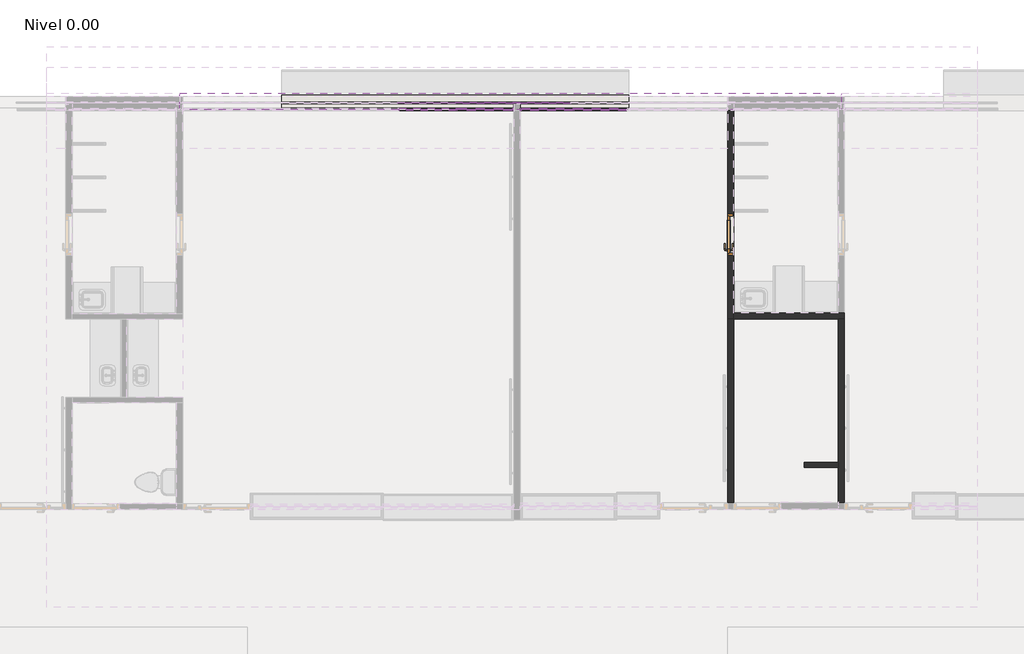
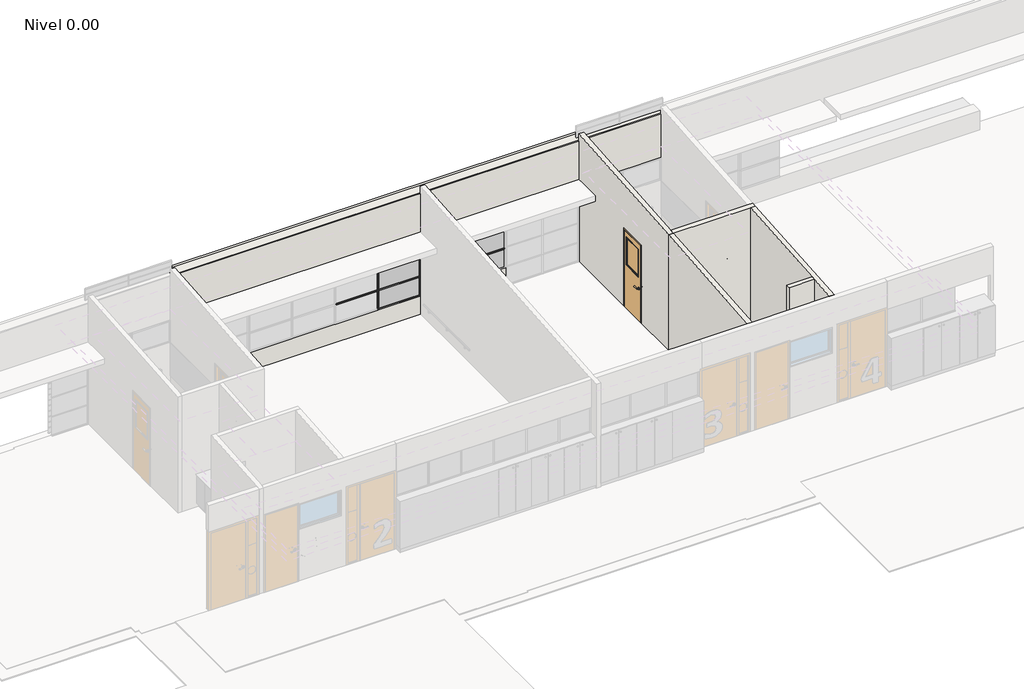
# One storey, part 18 of 27: 72 members, 42 plates, 7 walls, 1 door.
"""IFC4 building model written with IfcOpenShell, lengths in millimetres."""

from ifc_helpers import new_model, si_unit, frame, origin, place, context, project, spatial, polyline, outline, extrude, faceted_brep, transform, mapped, element, save
from components import puerta_c_01_c01_800x2100mm_f7d64b3f, circular_mullion_f540d6b4, l_corner_mullion_285056ba, rectangular_mullion_bbf09746, rectangular_mullion_f7ba8490, rectangular_mullion_f0e0a5df, rectangular_mullion_80493510, rectangular_mullion_e9bbeab9, rectangular_mullion_d5adadfc, rectangular_mullion_0c4cfd72, rectangular_mullion_caa13081, rectangular_mullion_54f8157b, rectangular_mullion_de2a72ae, rectangular_mullion_bc77bd75, system_panel_6a406881, system_panel_bc75342b, system_panel_glazed_28309fe7, system_panel_glazed_4516bcf1, system_panel_glazed_e39bf73d, system_panel_glazed_5dd8fc48, system_panel_glazed_1c3239b0, system_panel_glazed_cf307010

model = new_model("IFC4")

# Units and contexts
model_context = context("Model", 3, world=origin())
ifc_project = project(units=[si_unit("LENGTHUNIT", "METRE", prefix="MILLI")], contexts=[model_context])

# Site, building, storey
site = spatial("IfcSite", under=ifc_project)
building = spatial("IfcBuilding", under=site)
storey = spatial("IfcBuildingStorey", under=building, Name="Nivel 0.00", Elevation=0.0)

# Door
placement = place(None, origin())
puerta_c_01_c01_800x2100mm_shape = puerta_c_01_c01_800x2100mm_f7d64b3f(model_context)
element("IfcDoor", 1, ObjectType="PUERTA_C-01 : C01_800X2100mm", at=placement, inside=storey, context=model_context, shape_type="MappedRepresentation", body=[
    mapped(puerta_c_01_c01_800x2100mm_shape, transform((3300.7310741, 4429.3952347, 0.0), x_axis=(0.0, 1.0, 0.0), y_axis=(-1.0, 0.0, 0.0), z_axis=(0.0, 0.0, 1.0))),
])

# Members
circular_mullion_shape = circular_mullion_f540d6b4(model_context)
element("IfcMember", 2, ObjectType="Circular Mullion : ARQ_HERR_16mm", at=placement, inside=storey, context=model_context, shape_type="MappedRepresentation", body=[
    mapped(circular_mullion_shape, transform((-879.9497259, 6959.4278548, 645.4545455), x_axis=(0.0, 0.0, 1.0), y_axis=(0.0, 1.0, 0.0), z_axis=(-1.0, 0.0, 0.0))),
])
element("IfcMember", 3, ObjectType="Circular Mullion : ARQ_HERR_16mm", at=placement, inside=storey, context=model_context, shape_type="MappedRepresentation", body=[
    mapped(circular_mullion_shape, transform((-1987.2830591, 6959.4278548, 645.4545455), x_axis=(0.0, 0.0, 1.0), y_axis=(0.0, 1.0, 0.0), z_axis=(-1.0, 0.0, 0.0))),
])
element("IfcMember", 4, ObjectType="Circular Mullion : ARQ_HERR_16mm", at=placement, inside=storey, context=model_context, shape_type="MappedRepresentation", body=[
    mapped(circular_mullion_shape, transform((-879.9497259, 6959.4278548, 790.9090909), x_axis=(0.0, 0.0, 1.0), y_axis=(0.0, 1.0, 0.0), z_axis=(-1.0, 0.0, 0.0))),
])
element("IfcMember", 5, ObjectType="Circular Mullion : ARQ_HERR_16mm", at=placement, inside=storey, context=model_context, shape_type="MappedRepresentation", body=[
    mapped(circular_mullion_shape, transform((-1987.2830591, 6959.4278548, 790.9090909), x_axis=(0.0, 0.0, 1.0), y_axis=(0.0, 1.0, 0.0), z_axis=(-1.0, 0.0, 0.0))),
])
element("IfcMember", 6, ObjectType="Circular Mullion : ARQ_HERR_16mm", at=placement, inside=storey, context=model_context, shape_type="MappedRepresentation", body=[
    mapped(circular_mullion_shape, transform((-879.9497259, 6959.4278548, 936.3636364), x_axis=(0.0, 0.0, 1.0), y_axis=(0.0, 1.0, 0.0), z_axis=(-1.0, 0.0, 0.0))),
])
element("IfcMember", 7, ObjectType="Circular Mullion : ARQ_HERR_16mm", at=placement, inside=storey, context=model_context, shape_type="MappedRepresentation", body=[
    mapped(circular_mullion_shape, transform((-1987.2830591, 6959.4278548, 936.3636364), x_axis=(0.0, 0.0, 1.0), y_axis=(0.0, 1.0, 0.0), z_axis=(-1.0, 0.0, 0.0))),
])
element("IfcMember", 8, ObjectType="Circular Mullion : ARQ_HERR_16mm", at=placement, inside=storey, context=model_context, shape_type="MappedRepresentation", body=[
    mapped(circular_mullion_shape, transform((-879.9497259, 6959.4278548, 1081.8181818), x_axis=(0.0, 0.0, 1.0), y_axis=(0.0, 1.0, 0.0), z_axis=(-1.0, 0.0, 0.0))),
])
element("IfcMember", 9, ObjectType="Circular Mullion : ARQ_HERR_16mm", at=placement, inside=storey, context=model_context, shape_type="MappedRepresentation", body=[
    mapped(circular_mullion_shape, transform((-1987.2830591, 6959.4278548, 1081.8181818), x_axis=(0.0, 0.0, 1.0), y_axis=(0.0, 1.0, 0.0), z_axis=(-1.0, 0.0, 0.0))),
])
element("IfcMember", 10, ObjectType="Circular Mullion : ARQ_HERR_16mm", at=placement, inside=storey, context=model_context, shape_type="MappedRepresentation", body=[
    mapped(circular_mullion_shape, transform((-879.9497259, 6959.4278548, 1227.2727273), x_axis=(0.0, 0.0, 1.0), y_axis=(0.0, 1.0, 0.0), z_axis=(-1.0, 0.0, 0.0))),
])
element("IfcMember", 11, ObjectType="Circular Mullion : ARQ_HERR_16mm", at=placement, inside=storey, context=model_context, shape_type="MappedRepresentation", body=[
    mapped(circular_mullion_shape, transform((-1987.2830591, 6959.4278548, 1227.2727273), x_axis=(0.0, 0.0, 1.0), y_axis=(0.0, 1.0, 0.0), z_axis=(-1.0, 0.0, 0.0))),
])
element("IfcMember", 12, ObjectType="Circular Mullion : ARQ_HERR_16mm", at=placement, inside=storey, context=model_context, shape_type="MappedRepresentation", body=[
    mapped(circular_mullion_shape, transform((-879.9497259, 6959.4278548, 1372.7272727), x_axis=(0.0, 0.0, 1.0), y_axis=(0.0, 1.0, 0.0), z_axis=(-1.0, 0.0, 0.0))),
])
element("IfcMember", 13, ObjectType="Circular Mullion : ARQ_HERR_16mm", at=placement, inside=storey, context=model_context, shape_type="MappedRepresentation", body=[
    mapped(circular_mullion_shape, transform((-1987.2830591, 6959.4278548, 1372.7272727), x_axis=(0.0, 0.0, 1.0), y_axis=(0.0, 1.0, 0.0), z_axis=(-1.0, 0.0, 0.0))),
])
element("IfcMember", 14, ObjectType="Circular Mullion : ARQ_HERR_16mm", at=placement, inside=storey, context=model_context, shape_type="MappedRepresentation", body=[
    mapped(circular_mullion_shape, transform((-879.9497259, 6959.4278548, 1518.1818182), x_axis=(0.0, 0.0, 1.0), y_axis=(0.0, 1.0, 0.0), z_axis=(-1.0, 0.0, 0.0))),
])
element("IfcMember", 15, ObjectType="Circular Mullion : ARQ_HERR_16mm", at=placement, inside=storey, context=model_context, shape_type="MappedRepresentation", body=[
    mapped(circular_mullion_shape, transform((-1987.2830591, 6959.4278548, 1518.1818182), x_axis=(0.0, 0.0, 1.0), y_axis=(0.0, 1.0, 0.0), z_axis=(-1.0, 0.0, 0.0))),
])
element("IfcMember", 16, ObjectType="Circular Mullion : ARQ_HERR_16mm", at=placement, inside=storey, context=model_context, shape_type="MappedRepresentation", body=[
    mapped(circular_mullion_shape, transform((-879.9497259, 6959.4278548, 1663.6363636), x_axis=(0.0, 0.0, 1.0), y_axis=(0.0, 1.0, 0.0), z_axis=(-1.0, 0.0, 0.0))),
])
element("IfcMember", 17, ObjectType="Circular Mullion : ARQ_HERR_16mm", at=placement, inside=storey, context=model_context, shape_type="MappedRepresentation", body=[
    mapped(circular_mullion_shape, transform((-1987.2830591, 6959.4278548, 1663.6363636), x_axis=(0.0, 0.0, 1.0), y_axis=(0.0, 1.0, 0.0), z_axis=(-1.0, 0.0, 0.0))),
])
element("IfcMember", 18, ObjectType="Circular Mullion : ARQ_HERR_16mm", at=placement, inside=storey, context=model_context, shape_type="MappedRepresentation", body=[
    mapped(circular_mullion_shape, transform((-879.9497259, 6959.4278548, 1809.0909091), x_axis=(0.0, 0.0, 1.0), y_axis=(0.0, 1.0, 0.0), z_axis=(-1.0, 0.0, 0.0))),
])
element("IfcMember", 19, ObjectType="Circular Mullion : ARQ_HERR_16mm", at=placement, inside=storey, context=model_context, shape_type="MappedRepresentation", body=[
    mapped(circular_mullion_shape, transform((-1987.2830591, 6959.4278548, 1809.0909091), x_axis=(0.0, 0.0, 1.0), y_axis=(0.0, 1.0, 0.0), z_axis=(-1.0, 0.0, 0.0))),
])
element("IfcMember", 20, ObjectType="Circular Mullion : ARQ_HERR_16mm", at=placement, inside=storey, context=model_context, shape_type="MappedRepresentation", body=[
    mapped(circular_mullion_shape, transform((-879.9497259, 6959.4278548, 1954.5454545), x_axis=(0.0, 0.0, 1.0), y_axis=(0.0, 1.0, 0.0), z_axis=(-1.0, 0.0, 0.0))),
])
element("IfcMember", 21, ObjectType="Circular Mullion : ARQ_HERR_16mm", at=placement, inside=storey, context=model_context, shape_type="MappedRepresentation", body=[
    mapped(circular_mullion_shape, transform((-1987.2830591, 6959.4278548, 1954.5454545), x_axis=(0.0, 0.0, 1.0), y_axis=(0.0, 1.0, 0.0), z_axis=(-1.0, 0.0, 0.0))),
])
l_corner_mullion_shape = l_corner_mullion_285056ba(model_context)
element("IfcMember", 22, ObjectType="L Corner Mullion : ARQ_HERR_15X6mm", at=placement, inside=storey, context=model_context, shape_type="MappedRepresentation", body=[
    mapped(l_corner_mullion_shape, transform((-879.9497259, 6959.4278548, 2100.0), x_axis=(0.0, 0.0, 1.0), y_axis=(0.0, 1.0, 0.0), z_axis=(-1.0, 0.0, 0.0))),
])
element("IfcMember", 23, ObjectType="L Corner Mullion : ARQ_HERR_15X6mm", at=placement, inside=storey, context=model_context, shape_type="MappedRepresentation", body=[
    mapped(l_corner_mullion_shape, transform((-1987.2830591, 6959.4278548, 2100.0), x_axis=(0.0, 0.0, 1.0), y_axis=(0.0, 1.0, 0.0), z_axis=(-1.0, 0.0, 0.0))),
])
element("IfcMember", 24, ObjectType="L Corner Mullion : ARQ_HERR_15X6mm", at=placement, inside=storey, context=model_context, shape_type="MappedRepresentation", body=[
    mapped(l_corner_mullion_shape, transform((-885.9497259, 6959.4278548, 500.0), x_axis=(0.0, 0.0, -1.0), y_axis=(0.0, 1.0, 0.0), z_axis=(1.0, 0.0, 0.0))),
])
element("IfcMember", 25, ObjectType="L Corner Mullion : ARQ_HERR_15X6mm", at=placement, inside=storey, context=model_context, shape_type="MappedRepresentation", body=[
    mapped(l_corner_mullion_shape, transform((-1993.2830591, 6959.4278548, 500.0), x_axis=(0.0, 0.0, -1.0), y_axis=(0.0, 1.0, 0.0), z_axis=(1.0, 0.0, 0.0))),
])
rectangular_mullion_shape = rectangular_mullion_bbf09746(model_context)
element("IfcMember", 26, ObjectType="Rectangular Mullion : ARQ_TV_MULL_50x30mm", at=placement, inside=storey, context=model_context, shape_type="MappedRepresentation", body=[
    mapped(rectangular_mullion_shape, transform((-1962.9977496, 6834.439065, 500.0), x_axis=(1.0, 0.0, 0.0), y_axis=(0.0, -1.0, 0.0), z_axis=(0.0, 0.0, -1.0))),
])
element("IfcMember", 27, ObjectType="Rectangular Mullion : ARQ_TV_MULL_50x30mm", at=placement, inside=storey, context=model_context, shape_type="MappedRepresentation", body=[
    mapped(rectangular_mullion_shape, transform((279.573814, 6834.4460974, 500.0), x_axis=(-1.0, 0.0, 0.0), y_axis=(0.0, 1.0, 0.0), z_axis=(0.0, 0.0, -1.0))),
])
element("IfcMember", 28, ObjectType="Rectangular Mullion : ARQ_TV_MULL_50x30mm", at=placement, inside=storey, context=model_context, shape_type="MappedRepresentation", body=[
    mapped(rectangular_mullion_shape, transform((-1962.9977496, 6834.439065, 1033.3333333), x_axis=(1.0, 0.0, 0.0), y_axis=(0.0, -1.0, 0.0), z_axis=(0.0, 0.0, -1.0))),
])
element("IfcMember", 29, ObjectType="Rectangular Mullion : ARQ_TV_MULL_50x30mm", at=placement, inside=storey, context=model_context, shape_type="MappedRepresentation", body=[
    mapped(rectangular_mullion_shape, transform((279.573814, 6834.4460974, 1033.3333333), x_axis=(-1.0, 0.0, 0.0), y_axis=(0.0, 1.0, 0.0), z_axis=(0.0, 0.0, -1.0))),
])
element("IfcMember", 30, ObjectType="Rectangular Mullion : ARQ_TV_MULL_50x30mm", at=placement, inside=storey, context=model_context, shape_type="MappedRepresentation", body=[
    mapped(rectangular_mullion_shape, transform((-1962.9977496, 6834.439065, 1566.6666667), x_axis=(1.0, 0.0, 0.0), y_axis=(0.0, -1.0, 0.0), z_axis=(0.0, 0.0, -1.0))),
])
element("IfcMember", 31, ObjectType="Rectangular Mullion : ARQ_TV_MULL_50x30mm", at=placement, inside=storey, context=model_context, shape_type="MappedRepresentation", body=[
    mapped(rectangular_mullion_shape, transform((279.573814, 6834.4460974, 1566.6666667), x_axis=(-1.0, 0.0, 0.0), y_axis=(0.0, 1.0, 0.0), z_axis=(0.0, 0.0, -1.0))),
])
rectangular_mullion_2_shape = rectangular_mullion_f7ba8490(model_context)
element("IfcMember", 32, ObjectType="Rectangular Mullion : ARQ_TV_MULL_50x30mm", at=placement, inside=storey, context=model_context, shape_type="MappedRepresentation", body=[
    mapped(rectangular_mullion_2_shape, transform((-865.5693128, 6834.439065, 500.0), x_axis=(1.0, 0.0, 0.0), y_axis=(0.0, -1.0, 0.0), z_axis=(0.0, 0.0, -1.0))),
])
element("IfcMember", 33, ObjectType="Rectangular Mullion : ARQ_TV_MULL_50x30mm", at=placement, inside=storey, context=model_context, shape_type="MappedRepresentation", body=[
    mapped(rectangular_mullion_2_shape, transform((-745.5693128, 6834.4460974, 500.0), x_axis=(-1.0, 0.0, 0.0), y_axis=(0.0, 1.0, 0.0), z_axis=(0.0, 0.0, -1.0))),
])
element("IfcMember", 34, ObjectType="Rectangular Mullion : ARQ_TV_MULL_50x30mm", at=placement, inside=storey, context=model_context, shape_type="MappedRepresentation", body=[
    mapped(rectangular_mullion_2_shape, transform((-865.5693128, 6834.439065, 1033.3333333), x_axis=(1.0, 0.0, 0.0), y_axis=(0.0, -1.0, 0.0), z_axis=(0.0, 0.0, -1.0))),
])
element("IfcMember", 35, ObjectType="Rectangular Mullion : ARQ_TV_MULL_50x30mm", at=placement, inside=storey, context=model_context, shape_type="MappedRepresentation", body=[
    mapped(rectangular_mullion_2_shape, transform((-745.5693128, 6834.4460974, 1033.3333333), x_axis=(-1.0, 0.0, 0.0), y_axis=(0.0, 1.0, 0.0), z_axis=(0.0, 0.0, -1.0))),
])
element("IfcMember", 36, ObjectType="Rectangular Mullion : ARQ_TV_MULL_50x30mm", at=placement, inside=storey, context=model_context, shape_type="MappedRepresentation", body=[
    mapped(rectangular_mullion_2_shape, transform((-865.5693128, 6834.439065, 1566.6666667), x_axis=(1.0, 0.0, 0.0), y_axis=(0.0, -1.0, 0.0), z_axis=(0.0, 0.0, -1.0))),
])
element("IfcMember", 37, ObjectType="Rectangular Mullion : ARQ_TV_MULL_50x30mm", at=placement, inside=storey, context=model_context, shape_type="MappedRepresentation", body=[
    mapped(rectangular_mullion_2_shape, transform((-745.5693128, 6834.4460974, 1566.6666667), x_axis=(-1.0, 0.0, 0.0), y_axis=(0.0, 1.0, 0.0), z_axis=(0.0, 0.0, -1.0))),
])
rectangular_mullion_3_shape = rectangular_mullion_f0e0a5df(model_context)
element("IfcMember", 38, ObjectType="Rectangular Mullion : ARQ_TV_MULL_50x30mm", at=placement, inside=storey, context=model_context, shape_type="MappedRepresentation", body=[
    mapped(rectangular_mullion_3_shape, transform((-895.5693128, 6834.439065, 2100.0), x_axis=(0.0, 0.0, 1.0), y_axis=(0.0, -1.0, 0.0), z_axis=(1.0, 0.0, 0.0))),
])
rectangular_mullion_4_shape = rectangular_mullion_80493510(model_context)
element("IfcMember", 39, ObjectType="Rectangular Mullion : ARQ_TV_MULL_50x30mm", at=placement, inside=storey, context=model_context, shape_type="MappedRepresentation", body=[
    mapped(rectangular_mullion_4_shape, transform((-1977.9977496, 6834.439065, 2100.0), x_axis=(0.0, 0.0, 1.0), y_axis=(0.0, -1.0, 0.0), z_axis=(1.0, 0.0, 0.0))),
])
element("IfcMember", 40, ObjectType="Rectangular Mullion : ARQ_TV_MULL_50x30mm", at=placement, inside=storey, context=model_context, shape_type="MappedRepresentation", body=[
    mapped(rectangular_mullion_3_shape, transform((-1947.9977496, 6834.439065, 500.0), x_axis=(0.0, 0.0, -1.0), y_axis=(0.0, -1.0, 0.0), z_axis=(-1.0, 0.0, 0.0))),
])
rectangular_mullion_5_shape = rectangular_mullion_e9bbeab9(model_context)
element("IfcMember", 41, ObjectType="Rectangular Mullion : ARQ_TV_MULL_50x30mm", at=placement, inside=storey, context=model_context, shape_type="MappedRepresentation", body=[
    mapped(rectangular_mullion_5_shape, transform((-1977.9977496, 6834.439065, 1033.3333333), x_axis=(0.0, 0.0, 1.0), y_axis=(0.0, -1.0, 0.0), z_axis=(1.0, 0.0, 0.0))),
])
element("IfcMember", 42, ObjectType="Rectangular Mullion : ARQ_TV_MULL_50x30mm", at=placement, inside=storey, context=model_context, shape_type="MappedRepresentation", body=[
    mapped(rectangular_mullion_5_shape, transform((-1977.9977496, 6834.439065, 1566.6666667), x_axis=(0.0, 0.0, 1.0), y_axis=(0.0, -1.0, 0.0), z_axis=(1.0, 0.0, 0.0))),
])
rectangular_mullion_6_shape = rectangular_mullion_d5adadfc(model_context)
element("IfcMember", 43, ObjectType="Rectangular Mullion : ARQ_TV_MULL_50x30mm", at=placement, inside=storey, context=model_context, shape_type="MappedRepresentation", body=[
    mapped(rectangular_mullion_6_shape, transform((-895.5693128, 6834.439065, 1033.3333333), x_axis=(0.0, 0.0, 1.0), y_axis=(0.0, -1.0, 0.0), z_axis=(1.0, 0.0, 0.0))),
])
element("IfcMember", 44, ObjectType="Rectangular Mullion : ARQ_TV_MULL_50x30mm", at=placement, inside=storey, context=model_context, shape_type="MappedRepresentation", body=[
    mapped(rectangular_mullion_6_shape, transform((-895.5693128, 6834.439065, 1566.6666667), x_axis=(0.0, 0.0, 1.0), y_axis=(0.0, -1.0, 0.0), z_axis=(1.0, 0.0, 0.0))),
])
rectangular_mullion_7_shape = rectangular_mullion_0c4cfd72(model_context)
element("IfcMember", 45, ObjectType="Rectangular Mullion : ARQ_TV_MULL_50x30mm", at=placement, inside=storey, context=model_context, shape_type="MappedRepresentation", body=[
    mapped(rectangular_mullion_7_shape, transform((-715.5693128, 6834.4460974, 2100.0), x_axis=(0.0, 0.0, 1.0), y_axis=(0.0, 1.0, 0.0), z_axis=(-1.0, 0.0, 0.0))),
])
rectangular_mullion_8_shape = rectangular_mullion_caa13081(model_context)
element("IfcMember", 46, ObjectType="Rectangular Mullion : ARQ_TV_MULL_50x30mm", at=placement, inside=storey, context=model_context, shape_type="MappedRepresentation", body=[
    mapped(rectangular_mullion_8_shape, transform((294.573814, 6834.4460974, 2100.0), x_axis=(0.0, 0.0, 1.0), y_axis=(0.0, 1.0, 0.0), z_axis=(-1.0, 0.0, 0.0))),
])
element("IfcMember", 47, ObjectType="Rectangular Mullion : ARQ_TV_MULL_50x30mm", at=placement, inside=storey, context=model_context, shape_type="MappedRepresentation", body=[
    mapped(rectangular_mullion_7_shape, transform((264.573814, 6834.4460974, 500.0), x_axis=(0.0, 0.0, -1.0), y_axis=(0.0, 1.0, 0.0), z_axis=(1.0, 0.0, 0.0))),
])
rectangular_mullion_9_shape = rectangular_mullion_54f8157b(model_context)
element("IfcMember", 48, ObjectType="Rectangular Mullion : ARQ_TV_MULL_50x30mm", at=placement, inside=storey, context=model_context, shape_type="MappedRepresentation", body=[
    mapped(rectangular_mullion_9_shape, transform((294.573814, 6834.4460974, 1033.3333333), x_axis=(0.0, 0.0, 1.0), y_axis=(0.0, 1.0, 0.0), z_axis=(-1.0, 0.0, 0.0))),
])
element("IfcMember", 49, ObjectType="Rectangular Mullion : ARQ_TV_MULL_50x30mm", at=placement, inside=storey, context=model_context, shape_type="MappedRepresentation", body=[
    mapped(rectangular_mullion_9_shape, transform((294.573814, 6834.4460974, 1566.6666667), x_axis=(0.0, 0.0, 1.0), y_axis=(0.0, 1.0, 0.0), z_axis=(-1.0, 0.0, 0.0))),
])
rectangular_mullion_10_shape = rectangular_mullion_de2a72ae(model_context)
element("IfcMember", 50, ObjectType="Rectangular Mullion : ARQ_TV_MULL_50x30mm", at=placement, inside=storey, context=model_context, shape_type="MappedRepresentation", body=[
    mapped(rectangular_mullion_10_shape, transform((-715.5693128, 6834.4460974, 1033.3333333), x_axis=(0.0, 0.0, 1.0), y_axis=(0.0, 1.0, 0.0), z_axis=(-1.0, 0.0, 0.0))),
])
element("IfcMember", 51, ObjectType="Rectangular Mullion : ARQ_TV_MULL_50x30mm", at=placement, inside=storey, context=model_context, shape_type="MappedRepresentation", body=[
    mapped(rectangular_mullion_10_shape, transform((-715.5693128, 6834.4460974, 1566.6666667), x_axis=(0.0, 0.0, 1.0), y_axis=(0.0, 1.0, 0.0), z_axis=(-1.0, 0.0, 0.0))),
])
rectangular_mullion_11_shape = rectangular_mullion_bc77bd75(model_context)
element("IfcMember", 52, ObjectType="Rectangular Mullion : ARQ_HERR_15X6mm", at=placement, inside=storey, context=model_context, shape_type="MappedRepresentation", body=[
    mapped(rectangular_mullion_11_shape, transform((-882.9497259, 6959.4278548, 500.0), x_axis=(-1.0, 0.0, 0.0), y_axis=(0.0, 1.0, 0.0), z_axis=(0.0, 0.0, -1.0))),
])
element("IfcMember", 53, ObjectType="Rectangular Mullion : ARQ_HERR_15X6mm", at=placement, inside=storey, context=model_context, shape_type="MappedRepresentation", body=[
    mapped(rectangular_mullion_11_shape, transform((-1990.2830591, 6959.4278548, 500.0), x_axis=(-1.0, 0.0, 0.0), y_axis=(0.0, 1.0, 0.0), z_axis=(0.0, 0.0, -1.0))),
])
element("IfcMember", 54, ObjectType="Rectangular Mullion : ARQ_HERR_15X6mm", at=placement, inside=storey, context=model_context, shape_type="MappedRepresentation", body=[
    mapped(rectangular_mullion_11_shape, transform((-882.9497259, 6959.4278548, 645.4545455), x_axis=(-1.0, 0.0, 0.0), y_axis=(0.0, 1.0, 0.0), z_axis=(0.0, 0.0, -1.0))),
])
element("IfcMember", 55, ObjectType="Rectangular Mullion : ARQ_HERR_15X6mm", at=placement, inside=storey, context=model_context, shape_type="MappedRepresentation", body=[
    mapped(rectangular_mullion_11_shape, transform((-1990.2830591, 6959.4278548, 645.4545455), x_axis=(-1.0, 0.0, 0.0), y_axis=(0.0, 1.0, 0.0), z_axis=(0.0, 0.0, -1.0))),
])
element("IfcMember", 56, ObjectType="Rectangular Mullion : ARQ_HERR_15X6mm", at=placement, inside=storey, context=model_context, shape_type="MappedRepresentation", body=[
    mapped(rectangular_mullion_11_shape, transform((-882.9497259, 6959.4278548, 790.9090909), x_axis=(-1.0, 0.0, 0.0), y_axis=(0.0, 1.0, 0.0), z_axis=(0.0, 0.0, -1.0))),
])
element("IfcMember", 57, ObjectType="Rectangular Mullion : ARQ_HERR_15X6mm", at=placement, inside=storey, context=model_context, shape_type="MappedRepresentation", body=[
    mapped(rectangular_mullion_11_shape, transform((-1990.2830591, 6959.4278548, 790.9090909), x_axis=(-1.0, 0.0, 0.0), y_axis=(0.0, 1.0, 0.0), z_axis=(0.0, 0.0, -1.0))),
])
element("IfcMember", 58, ObjectType="Rectangular Mullion : ARQ_HERR_15X6mm", at=placement, inside=storey, context=model_context, shape_type="MappedRepresentation", body=[
    mapped(rectangular_mullion_11_shape, transform((-882.9497259, 6959.4278548, 936.3636364), x_axis=(-1.0, 0.0, 0.0), y_axis=(0.0, 1.0, 0.0), z_axis=(0.0, 0.0, -1.0))),
])
element("IfcMember", 59, ObjectType="Rectangular Mullion : ARQ_HERR_15X6mm", at=placement, inside=storey, context=model_context, shape_type="MappedRepresentation", body=[
    mapped(rectangular_mullion_11_shape, transform((-1990.2830591, 6959.4278548, 936.3636364), x_axis=(-1.0, 0.0, 0.0), y_axis=(0.0, 1.0, 0.0), z_axis=(0.0, 0.0, -1.0))),
])
element("IfcMember", 60, ObjectType="Rectangular Mullion : ARQ_HERR_15X6mm", at=placement, inside=storey, context=model_context, shape_type="MappedRepresentation", body=[
    mapped(rectangular_mullion_11_shape, transform((-882.9497259, 6959.4278548, 1081.8181818), x_axis=(-1.0, 0.0, 0.0), y_axis=(0.0, 1.0, 0.0), z_axis=(0.0, 0.0, -1.0))),
])
element("IfcMember", 61, ObjectType="Rectangular Mullion : ARQ_HERR_15X6mm", at=placement, inside=storey, context=model_context, shape_type="MappedRepresentation", body=[
    mapped(rectangular_mullion_11_shape, transform((-1990.2830591, 6959.4278548, 1081.8181818), x_axis=(-1.0, 0.0, 0.0), y_axis=(0.0, 1.0, 0.0), z_axis=(0.0, 0.0, -1.0))),
])
element("IfcMember", 62, ObjectType="Rectangular Mullion : ARQ_HERR_15X6mm", at=placement, inside=storey, context=model_context, shape_type="MappedRepresentation", body=[
    mapped(rectangular_mullion_11_shape, transform((-882.9497259, 6959.4278548, 1227.2727273), x_axis=(-1.0, 0.0, 0.0), y_axis=(0.0, 1.0, 0.0), z_axis=(0.0, 0.0, -1.0))),
])
element("IfcMember", 63, ObjectType="Rectangular Mullion : ARQ_HERR_15X6mm", at=placement, inside=storey, context=model_context, shape_type="MappedRepresentation", body=[
    mapped(rectangular_mullion_11_shape, transform((-1990.2830591, 6959.4278548, 1227.2727273), x_axis=(-1.0, 0.0, 0.0), y_axis=(0.0, 1.0, 0.0), z_axis=(0.0, 0.0, -1.0))),
])
element("IfcMember", 64, ObjectType="Rectangular Mullion : ARQ_HERR_15X6mm", at=placement, inside=storey, context=model_context, shape_type="MappedRepresentation", body=[
    mapped(rectangular_mullion_11_shape, transform((-882.9497259, 6959.4278548, 1372.7272727), x_axis=(-1.0, 0.0, 0.0), y_axis=(0.0, 1.0, 0.0), z_axis=(0.0, 0.0, -1.0))),
])
element("IfcMember", 65, ObjectType="Rectangular Mullion : ARQ_HERR_15X6mm", at=placement, inside=storey, context=model_context, shape_type="MappedRepresentation", body=[
    mapped(rectangular_mullion_11_shape, transform((-1990.2830591, 6959.4278548, 1372.7272727), x_axis=(-1.0, 0.0, 0.0), y_axis=(0.0, 1.0, 0.0), z_axis=(0.0, 0.0, -1.0))),
])
element("IfcMember", 66, ObjectType="Rectangular Mullion : ARQ_HERR_15X6mm", at=placement, inside=storey, context=model_context, shape_type="MappedRepresentation", body=[
    mapped(rectangular_mullion_11_shape, transform((-882.9497259, 6959.4278548, 1518.1818182), x_axis=(-1.0, 0.0, 0.0), y_axis=(0.0, 1.0, 0.0), z_axis=(0.0, 0.0, -1.0))),
])
element("IfcMember", 67, ObjectType="Rectangular Mullion : ARQ_HERR_15X6mm", at=placement, inside=storey, context=model_context, shape_type="MappedRepresentation", body=[
    mapped(rectangular_mullion_11_shape, transform((-1990.2830591, 6959.4278548, 1518.1818182), x_axis=(-1.0, 0.0, 0.0), y_axis=(0.0, 1.0, 0.0), z_axis=(0.0, 0.0, -1.0))),
])
element("IfcMember", 68, ObjectType="Rectangular Mullion : ARQ_HERR_15X6mm", at=placement, inside=storey, context=model_context, shape_type="MappedRepresentation", body=[
    mapped(rectangular_mullion_11_shape, transform((-882.9497259, 6959.4278548, 1663.6363636), x_axis=(-1.0, 0.0, 0.0), y_axis=(0.0, 1.0, 0.0), z_axis=(0.0, 0.0, -1.0))),
])
element("IfcMember", 69, ObjectType="Rectangular Mullion : ARQ_HERR_15X6mm", at=placement, inside=storey, context=model_context, shape_type="MappedRepresentation", body=[
    mapped(rectangular_mullion_11_shape, transform((-1990.2830591, 6959.4278548, 1663.6363636), x_axis=(-1.0, 0.0, 0.0), y_axis=(0.0, 1.0, 0.0), z_axis=(0.0, 0.0, -1.0))),
])
element("IfcMember", 70, ObjectType="Rectangular Mullion : ARQ_HERR_15X6mm", at=placement, inside=storey, context=model_context, shape_type="MappedRepresentation", body=[
    mapped(rectangular_mullion_11_shape, transform((-882.9497259, 6959.4278548, 1809.0909091), x_axis=(-1.0, 0.0, 0.0), y_axis=(0.0, 1.0, 0.0), z_axis=(0.0, 0.0, -1.0))),
])
element("IfcMember", 71, ObjectType="Rectangular Mullion : ARQ_HERR_15X6mm", at=placement, inside=storey, context=model_context, shape_type="MappedRepresentation", body=[
    mapped(rectangular_mullion_11_shape, transform((-1990.2830591, 6959.4278548, 1809.0909091), x_axis=(-1.0, 0.0, 0.0), y_axis=(0.0, 1.0, 0.0), z_axis=(0.0, 0.0, -1.0))),
])
element("IfcMember", 72, ObjectType="Rectangular Mullion : ARQ_HERR_15X6mm", at=placement, inside=storey, context=model_context, shape_type="MappedRepresentation", body=[
    mapped(rectangular_mullion_11_shape, transform((-882.9497259, 6959.4278548, 1954.5454545), x_axis=(-1.0, 0.0, 0.0), y_axis=(0.0, 1.0, 0.0), z_axis=(0.0, 0.0, -1.0))),
])
element("IfcMember", 73, ObjectType="Rectangular Mullion : ARQ_HERR_15X6mm", at=placement, inside=storey, context=model_context, shape_type="MappedRepresentation", body=[
    mapped(rectangular_mullion_11_shape, transform((-1990.2830591, 6959.4278548, 1954.5454545), x_axis=(-1.0, 0.0, 0.0), y_axis=(0.0, 1.0, 0.0), z_axis=(0.0, 0.0, -1.0))),
])

# Plates
system_panel_shape = system_panel_6a406881(model_context)
element("IfcPlate", 74, ObjectType="System Panel : VACÍO", at=placement, inside=storey, context=model_context, shape_type="MappedRepresentation", body=[
    mapped(system_panel_shape, transform((778.0502741, 6959.4278548, 506.0), x_axis=(-1.0, 0.0, 0.0), y_axis=(0.0, -1.0, 0.0), z_axis=(0.0, 0.0, 1.0))),
])
element("IfcPlate", 75, ObjectType="System Panel : VACÍO", at=placement, inside=storey, context=model_context, shape_type="MappedRepresentation", body=[
    mapped(system_panel_shape, transform((-329.2830592, 6959.4278548, 506.0), x_axis=(-1.0, 0.0, 0.0), y_axis=(0.0, -1.0, 0.0), z_axis=(0.0, 0.0, 1.0))),
])
element("IfcPlate", 76, ObjectType="System Panel : VACÍO", at=placement, inside=storey, context=model_context, shape_type="MappedRepresentation", body=[
    mapped(system_panel_shape, transform((-1436.6163925, 6959.4278548, 506.0), x_axis=(-1.0, 0.0, 0.0), y_axis=(0.0, -1.0, 0.0), z_axis=(0.0, 0.0, 1.0))),
])
element("IfcPlate", 77, ObjectType="System Panel : VACÍO", at=placement, inside=storey, context=model_context, shape_type="MappedRepresentation", body=[
    mapped(system_panel_shape, transform((-329.2830592, 6959.4278548, 1962.5454545), x_axis=(-1.0, 0.0, 0.0), y_axis=(0.0, -1.0, 0.0), z_axis=(0.0, 0.0, 1.0))),
])
element("IfcPlate", 78, ObjectType="System Panel : VACÍO", at=placement, inside=storey, context=model_context, shape_type="MappedRepresentation", body=[
    mapped(system_panel_shape, transform((-1436.6163925, 6959.4278548, 1962.5454545), x_axis=(-1.0, 0.0, 0.0), y_axis=(0.0, -1.0, 0.0), z_axis=(0.0, 0.0, 1.0))),
])
element("IfcPlate", 79, ObjectType="System Panel : VACÍO", at=placement, inside=storey, context=model_context, shape_type="MappedRepresentation", body=[
    mapped(system_panel_shape, transform((-2543.9497257, 6959.4278548, 1962.5454545), x_axis=(-1.0, 0.0, 0.0), y_axis=(0.0, -1.0, 0.0), z_axis=(0.0, 0.0, 1.0))),
])
system_panel_2_shape = system_panel_bc75342b(model_context)
element("IfcPlate", 80, ObjectType="System Panel : VACÍO", at=placement, inside=storey, context=model_context, shape_type="MappedRepresentation", body=[
    mapped(system_panel_2_shape, transform((778.0502741, 6959.4278548, 653.4545455), x_axis=(-1.0, 0.0, 0.0), y_axis=(0.0, -1.0, 0.0), z_axis=(0.0, 0.0, 1.0))),
])
element("IfcPlate", 81, ObjectType="System Panel : VACÍO", at=placement, inside=storey, context=model_context, shape_type="MappedRepresentation", body=[
    mapped(system_panel_2_shape, transform((-329.2830592, 6959.4278548, 653.4545455), x_axis=(-1.0, 0.0, 0.0), y_axis=(0.0, -1.0, 0.0), z_axis=(0.0, 0.0, 1.0))),
])
element("IfcPlate", 82, ObjectType="System Panel : VACÍO", at=placement, inside=storey, context=model_context, shape_type="MappedRepresentation", body=[
    mapped(system_panel_2_shape, transform((-1436.6163925, 6959.4278548, 653.4545455), x_axis=(-1.0, 0.0, 0.0), y_axis=(0.0, -1.0, 0.0), z_axis=(0.0, 0.0, 1.0))),
])
element("IfcPlate", 83, ObjectType="System Panel : VACÍO", at=placement, inside=storey, context=model_context, shape_type="MappedRepresentation", body=[
    mapped(system_panel_2_shape, transform((778.0502741, 6959.4278548, 798.9090909), x_axis=(-1.0, 0.0, 0.0), y_axis=(0.0, -1.0, 0.0), z_axis=(0.0, 0.0, 1.0))),
])
element("IfcPlate", 84, ObjectType="System Panel : VACÍO", at=placement, inside=storey, context=model_context, shape_type="MappedRepresentation", body=[
    mapped(system_panel_2_shape, transform((-329.2830592, 6959.4278548, 798.9090909), x_axis=(-1.0, 0.0, 0.0), y_axis=(0.0, -1.0, 0.0), z_axis=(0.0, 0.0, 1.0))),
])
element("IfcPlate", 85, ObjectType="System Panel : VACÍO", at=placement, inside=storey, context=model_context, shape_type="MappedRepresentation", body=[
    mapped(system_panel_2_shape, transform((-1436.6163925, 6959.4278548, 798.9090909), x_axis=(-1.0, 0.0, 0.0), y_axis=(0.0, -1.0, 0.0), z_axis=(0.0, 0.0, 1.0))),
])
element("IfcPlate", 86, ObjectType="System Panel : VACÍO", at=placement, inside=storey, context=model_context, shape_type="MappedRepresentation", body=[
    mapped(system_panel_2_shape, transform((778.0502741, 6959.4278548, 944.3636364), x_axis=(-1.0, 0.0, 0.0), y_axis=(0.0, -1.0, 0.0), z_axis=(0.0, 0.0, 1.0))),
])
element("IfcPlate", 87, ObjectType="System Panel : VACÍO", at=placement, inside=storey, context=model_context, shape_type="MappedRepresentation", body=[
    mapped(system_panel_2_shape, transform((-329.2830592, 6959.4278548, 944.3636364), x_axis=(-1.0, 0.0, 0.0), y_axis=(0.0, -1.0, 0.0), z_axis=(0.0, 0.0, 1.0))),
])
element("IfcPlate", 88, ObjectType="System Panel : VACÍO", at=placement, inside=storey, context=model_context, shape_type="MappedRepresentation", body=[
    mapped(system_panel_2_shape, transform((-1436.6163925, 6959.4278548, 944.3636364), x_axis=(-1.0, 0.0, 0.0), y_axis=(0.0, -1.0, 0.0), z_axis=(0.0, 0.0, 1.0))),
])
element("IfcPlate", 89, ObjectType="System Panel : VACÍO", at=placement, inside=storey, context=model_context, shape_type="MappedRepresentation", body=[
    mapped(system_panel_2_shape, transform((778.0502741, 6959.4278548, 1089.8181818), x_axis=(-1.0, 0.0, 0.0), y_axis=(0.0, -1.0, 0.0), z_axis=(0.0, 0.0, 1.0))),
])
element("IfcPlate", 90, ObjectType="System Panel : VACÍO", at=placement, inside=storey, context=model_context, shape_type="MappedRepresentation", body=[
    mapped(system_panel_2_shape, transform((-329.2830592, 6959.4278548, 1089.8181818), x_axis=(-1.0, 0.0, 0.0), y_axis=(0.0, -1.0, 0.0), z_axis=(0.0, 0.0, 1.0))),
])
element("IfcPlate", 91, ObjectType="System Panel : VACÍO", at=placement, inside=storey, context=model_context, shape_type="MappedRepresentation", body=[
    mapped(system_panel_2_shape, transform((-1436.6163925, 6959.4278548, 1089.8181818), x_axis=(-1.0, 0.0, 0.0), y_axis=(0.0, -1.0, 0.0), z_axis=(0.0, 0.0, 1.0))),
])
element("IfcPlate", 92, ObjectType="System Panel : VACÍO", at=placement, inside=storey, context=model_context, shape_type="MappedRepresentation", body=[
    mapped(system_panel_2_shape, transform((778.0502741, 6959.4278548, 1235.2727273), x_axis=(-1.0, 0.0, 0.0), y_axis=(0.0, -1.0, 0.0), z_axis=(0.0, 0.0, 1.0))),
])
element("IfcPlate", 93, ObjectType="System Panel : VACÍO", at=placement, inside=storey, context=model_context, shape_type="MappedRepresentation", body=[
    mapped(system_panel_2_shape, transform((-329.2830592, 6959.4278548, 1235.2727273), x_axis=(-1.0, 0.0, 0.0), y_axis=(0.0, -1.0, 0.0), z_axis=(0.0, 0.0, 1.0))),
])
element("IfcPlate", 94, ObjectType="System Panel : VACÍO", at=placement, inside=storey, context=model_context, shape_type="MappedRepresentation", body=[
    mapped(system_panel_2_shape, transform((-1436.6163925, 6959.4278548, 1235.2727273), x_axis=(-1.0, 0.0, 0.0), y_axis=(0.0, -1.0, 0.0), z_axis=(0.0, 0.0, 1.0))),
])
element("IfcPlate", 95, ObjectType="System Panel : VACÍO", at=placement, inside=storey, context=model_context, shape_type="MappedRepresentation", body=[
    mapped(system_panel_2_shape, transform((778.0502741, 6959.4278548, 1380.7272727), x_axis=(-1.0, 0.0, 0.0), y_axis=(0.0, -1.0, 0.0), z_axis=(0.0, 0.0, 1.0))),
])
element("IfcPlate", 96, ObjectType="System Panel : VACÍO", at=placement, inside=storey, context=model_context, shape_type="MappedRepresentation", body=[
    mapped(system_panel_2_shape, transform((-329.2830592, 6959.4278548, 1380.7272727), x_axis=(-1.0, 0.0, 0.0), y_axis=(0.0, -1.0, 0.0), z_axis=(0.0, 0.0, 1.0))),
])
element("IfcPlate", 97, ObjectType="System Panel : VACÍO", at=placement, inside=storey, context=model_context, shape_type="MappedRepresentation", body=[
    mapped(system_panel_2_shape, transform((-1436.6163925, 6959.4278548, 1380.7272727), x_axis=(-1.0, 0.0, 0.0), y_axis=(0.0, -1.0, 0.0), z_axis=(0.0, 0.0, 1.0))),
])
element("IfcPlate", 98, ObjectType="System Panel : VACÍO", at=placement, inside=storey, context=model_context, shape_type="MappedRepresentation", body=[
    mapped(system_panel_2_shape, transform((778.0502741, 6959.4278548, 1526.1818182), x_axis=(-1.0, 0.0, 0.0), y_axis=(0.0, -1.0, 0.0), z_axis=(0.0, 0.0, 1.0))),
])
element("IfcPlate", 99, ObjectType="System Panel : VACÍO", at=placement, inside=storey, context=model_context, shape_type="MappedRepresentation", body=[
    mapped(system_panel_2_shape, transform((-329.2830592, 6959.4278548, 1526.1818182), x_axis=(-1.0, 0.0, 0.0), y_axis=(0.0, -1.0, 0.0), z_axis=(0.0, 0.0, 1.0))),
])
element("IfcPlate", 100, ObjectType="System Panel : VACÍO", at=placement, inside=storey, context=model_context, shape_type="MappedRepresentation", body=[
    mapped(system_panel_2_shape, transform((-1436.6163925, 6959.4278548, 1526.1818182), x_axis=(-1.0, 0.0, 0.0), y_axis=(0.0, -1.0, 0.0), z_axis=(0.0, 0.0, 1.0))),
])
element("IfcPlate", 101, ObjectType="System Panel : VACÍO", at=placement, inside=storey, context=model_context, shape_type="MappedRepresentation", body=[
    mapped(system_panel_2_shape, transform((778.0502741, 6959.4278548, 1671.6363636), x_axis=(-1.0, 0.0, 0.0), y_axis=(0.0, -1.0, 0.0), z_axis=(0.0, 0.0, 1.0))),
])
element("IfcPlate", 102, ObjectType="System Panel : VACÍO", at=placement, inside=storey, context=model_context, shape_type="MappedRepresentation", body=[
    mapped(system_panel_2_shape, transform((-329.2830592, 6959.4278548, 1671.6363636), x_axis=(-1.0, 0.0, 0.0), y_axis=(0.0, -1.0, 0.0), z_axis=(0.0, 0.0, 1.0))),
])
element("IfcPlate", 103, ObjectType="System Panel : VACÍO", at=placement, inside=storey, context=model_context, shape_type="MappedRepresentation", body=[
    mapped(system_panel_2_shape, transform((-1436.6163925, 6959.4278548, 1671.6363636), x_axis=(-1.0, 0.0, 0.0), y_axis=(0.0, -1.0, 0.0), z_axis=(0.0, 0.0, 1.0))),
])
element("IfcPlate", 104, ObjectType="System Panel : VACÍO", at=placement, inside=storey, context=model_context, shape_type="MappedRepresentation", body=[
    mapped(system_panel_2_shape, transform((-329.2830592, 6959.4278548, 1817.0909091), x_axis=(-1.0, 0.0, 0.0), y_axis=(0.0, -1.0, 0.0), z_axis=(0.0, 0.0, 1.0))),
])
element("IfcPlate", 105, ObjectType="System Panel : VACÍO", at=placement, inside=storey, context=model_context, shape_type="MappedRepresentation", body=[
    mapped(system_panel_2_shape, transform((-1436.6163925, 6959.4278548, 1817.0909091), x_axis=(-1.0, 0.0, 0.0), y_axis=(0.0, -1.0, 0.0), z_axis=(0.0, 0.0, 1.0))),
])
element("IfcPlate", 106, ObjectType="System Panel : VACÍO", at=placement, inside=storey, context=model_context, shape_type="MappedRepresentation", body=[
    mapped(system_panel_2_shape, transform((-2543.9497257, 6959.4278548, 1817.0909091), x_axis=(-1.0, 0.0, 0.0), y_axis=(0.0, -1.0, 0.0), z_axis=(0.0, 0.0, 1.0))),
])
system_panel_glazed_shape = system_panel_glazed_28309fe7(model_context)
element("IfcPlate", 107, ObjectType="System Panel : Glazed", at=placement, inside=storey, context=model_context, shape_type="MappedRepresentation", body=[
    mapped(system_panel_glazed_shape, transform((-1421.7835312, 6834.439065, 530.0), x_axis=(1.0, 0.0, 0.0), y_axis=(0.0, 1.0, 0.0), z_axis=(0.0, 0.0, 1.0))),
])
element("IfcPlate", 108, ObjectType="System Panel : Glazed", at=placement, inside=storey, context=model_context, shape_type="MappedRepresentation", body=[
    mapped(system_panel_glazed_shape, transform((-1421.7835312, 6834.439065, 1581.6666667), x_axis=(1.0, 0.0, 0.0), y_axis=(0.0, 1.0, 0.0), z_axis=(0.0, 0.0, 1.0))),
])
system_panel_glazed_2_shape = system_panel_glazed_4516bcf1(model_context)
element("IfcPlate", 109, ObjectType="System Panel : Glazed", at=placement, inside=storey, context=model_context, shape_type="MappedRepresentation", body=[
    mapped(system_panel_glazed_2_shape, transform((-1421.7835312, 6834.439065, 1048.3333333), x_axis=(1.0, 0.0, 0.0), y_axis=(0.0, 1.0, 0.0), z_axis=(0.0, 0.0, 1.0))),
])
system_panel_glazed_3_shape = system_panel_glazed_e39bf73d(model_context)
element("IfcPlate", 110, ObjectType="System Panel : Glazed", at=placement, inside=storey, context=model_context, shape_type="MappedRepresentation", body=[
    mapped(system_panel_glazed_3_shape, transform((799.6453775, 6834.4460974, 530.0), x_axis=(-1.0, 0.0, 0.0), y_axis=(0.0, -1.0, 0.0), z_axis=(0.0, 0.0, 1.0))),
])
element("IfcPlate", 111, ObjectType="System Panel : Glazed", at=placement, inside=storey, context=model_context, shape_type="MappedRepresentation", body=[
    mapped(system_panel_glazed_3_shape, transform((799.6453775, 6834.4460974, 1581.6666667), x_axis=(-1.0, 0.0, 0.0), y_axis=(0.0, -1.0, 0.0), z_axis=(0.0, 0.0, 1.0))),
])
system_panel_glazed_4_shape = system_panel_glazed_5dd8fc48(model_context)
element("IfcPlate", 112, ObjectType="System Panel : Glazed", at=placement, inside=storey, context=model_context, shape_type="MappedRepresentation", body=[
    mapped(system_panel_glazed_4_shape, transform((-225.4977494, 6834.4460974, 530.0), x_axis=(-1.0, 0.0, 0.0), y_axis=(0.0, -1.0, 0.0), z_axis=(0.0, 0.0, 1.0))),
])
element("IfcPlate", 113, ObjectType="System Panel : Glazed", at=placement, inside=storey, context=model_context, shape_type="MappedRepresentation", body=[
    mapped(system_panel_glazed_4_shape, transform((-225.4977494, 6834.4460974, 1581.6666667), x_axis=(-1.0, 0.0, 0.0), y_axis=(0.0, -1.0, 0.0), z_axis=(0.0, 0.0, 1.0))),
])
system_panel_glazed_5_shape = system_panel_glazed_1c3239b0(model_context)
element("IfcPlate", 114, ObjectType="System Panel : Glazed", at=placement, inside=storey, context=model_context, shape_type="MappedRepresentation", body=[
    mapped(system_panel_glazed_5_shape, transform((799.6453775, 6834.4460974, 1048.3333333), x_axis=(-1.0, 0.0, 0.0), y_axis=(0.0, -1.0, 0.0), z_axis=(0.0, 0.0, 1.0))),
])
system_panel_glazed_6_shape = system_panel_glazed_cf307010(model_context)
element("IfcPlate", 115, ObjectType="System Panel : Glazed", at=placement, inside=storey, context=model_context, shape_type="MappedRepresentation", body=[
    mapped(system_panel_glazed_6_shape, transform((-225.4977494, 6834.4460974, 1048.3333333), x_axis=(-1.0, 0.0, 0.0), y_axis=(0.0, -1.0, 0.0), z_axis=(0.0, 0.0, 1.0))),
])

# Walls
element("IfcWall", 116, ObjectType="ARQ_MUR_M01_315mm", at=placement, inside=storey, context=model_context, shape_type="Brep", body=[
    faceted_brep([(-7275.5692731, 6824.4390418, 3283.740676), (-7275.5692731, 6824.4390418, 2100.0), (-7215.5692731, 6824.4390418, 2100.0), (-865.5693128, 6824.4390418, 2100.0), (-745.5693128, 6824.4390418, 2100.0), (3234.3810741, 6824.4390418, 2100.0), (3354.3810741, 6824.4390418, 2100.0), (5354.4935187, 6824.4390418, 2100.0), (5414.4935187, 6824.4390418, 2100.0), (5414.4935187, 6824.4390418, 3283.740676), (-7275.5692731, 7139.4390418, 2100.0), (-7275.5692731, 7139.4390418, 3309.1000126), (5414.4935187, 7139.4390418, 3309.1000126), (5414.4935187, 7139.4390418, 2100.0), (5414.4935187, 7089.4390418, 3305.0747211), (-7275.5692731, 7089.4390418, 3305.0747211), (5414.4935187, 6858.6242925, 3286.492788), (-7275.5692731, 6858.6151158, 3286.4920492)], [[[0, 1, 2, 3, 4, 5, 6, 7, 8, 9]], [[10, 11, 12, 13]], [[8, 7, 6, 5, 4, 3, 2, 1, 10, 13]], [[14, 12, 11, 15]], [[0, 9, 16, 17]], [[16, 14, 15, 17]], [[8, 13, 12, 14, 16, 9]], [[0, 17, 15, 11, 10, 1]]]),
])
element("IfcWall", 117, ObjectType="ARQ_MUR_M02-G_300mm", at=placement, inside=storey, context=model_context, shape_type="Brep", body=[
    faceted_brep([(-5315.2830591, 6809.4278548, -20.0), (-865.5693128, 6809.4278548, -20.0), (-745.5693128, 6809.4278548, -20.0), (1334.7169409, 6809.4278548, -20.0), (1334.7169409, 6809.4278548, 500.0), (-5315.2830591, 6809.4278548, 500.0), (-5315.2830591, 7109.4278548, -20.0), (-5315.2830591, 7109.4278548, 500.0), (1334.7169409, 7109.4278548, 500.0), (1334.7169409, 7109.4278548, -20.0)], [[[0, 1, 2, 3, 4, 5]], [[6, 7, 8, 9]], [[3, 2, 1, 0, 6, 9]], [[4, 3, 9, 8]], [[5, 4, 8, 7]], [[0, 5, 7, 6]]]),
])
element("IfcWall", 118, ObjectType="ARQ_TAB_T02_120mm", at=placement, inside=storey, context=model_context, shape_type="Brep", body=[
    faceted_brep([(3234.3810741, 6809.4388916, -20.0), (3234.3810741, 2809.3952347, -20.0), (3234.3810741, 2809.3952347, 3161.153312), (3234.3810741, 6824.4390418, 3484.3877481), (3234.3810741, 6824.4390418, 2100.0), (3234.3810741, 6809.4388916, 2100.0), (3234.3810741, 6809.4388916, 1500.0), (3234.3810741, 4829.3952347, 0.0), (3234.3810741, 4829.3952347, 2130.0), (3234.3810741, 4029.3952347, 2130.0), (3234.3810741, 4029.3952347, 0.0), (3354.3810741, 2809.3952347, -20.0), (3354.3810741, 2929.3952347, -20.0), (3354.3810741, 6809.4388916, -20.0), (3354.3810741, 6809.4388916, 1500.0), (3354.3810741, 6809.4388916, 2100.0), (3354.3810741, 6824.4390418, 2100.0), (3354.3810741, 6824.4390418, 3484.3877481), (3354.3810741, 2929.3952347, 3170.8140116), (3354.3810741, 2809.3952347, 3161.153312), (3354.3810741, 4829.3952347, 2130.0), (3354.3810741, 4829.3952347, 0.0), (3354.3810741, 4029.3952347, 0.0), (3354.3810741, 4029.3952347, 2130.0)], [[[0, 1, 2, 3, 4, 5, 6], [7, 8, 9, 10]], [[11, 12, 13, 14, 15, 16, 17, 18, 19], [20, 21, 22, 23]], [[1, 0, 13, 12, 11]], [[2, 1, 11, 19]], [[7, 21, 20, 8]], [[8, 20, 23, 9]], [[9, 23, 22, 10]], [[21, 7, 10, 22]], [[3, 2, 19, 18, 17]], [[16, 15, 5, 4]], [[13, 0, 6, 5, 15, 14]], [[3, 17, 16, 4]]]),
])
element("IfcWall", 119, ObjectType="ARQ_TAB_T02_120mm", at=placement, inside=storey, context=model_context, shape_type="Brep", body=[
    faceted_brep([(3354.3810741, 2809.3952347, -20.0), (5354.4935517, 2809.3952347, -20.0), (5474.4935187, 2809.3952347, -20.0), (5474.4935187, 2809.3952347, 3161.153312), (5354.4935517, 2809.3952347, 3161.153312), (3354.3810741, 2809.3952347, 3161.153312), (3354.3810741, 2929.3952347, -20.0), (3354.3810741, 2929.3952347, 3170.8140116), (5354.4935187, 2929.3952347, 3170.8140116), (5474.4935187, 2929.3952347, 3170.8140116), (5474.4935187, 2929.3952347, -20.0), (5354.4935187, 2929.3952347, -20.0)], [[[0, 1, 2, 3, 4, 5]], [[6, 7, 8, 9, 10, 11]], [[2, 1, 0, 6, 11, 10]], [[0, 5, 7, 6]], [[3, 2, 10, 9]], [[5, 4, 3, 9, 8, 7]]]),
])
element("IfcWall", 120, ObjectType="ARQ_TAB_T02a_100mm", at=placement, inside=storey, context=model_context, shape_type="SweptSolid", body=[
    extrude(outline(polyline([(-40.6047653, -20.0), (-40.6047653, 2931.711695), (59.3952347, 2939.7622781), (59.3952347, -20.0), (-40.6047653, -20.0)])), frame((4704.4309964, 0.0, 0.0), z_axis=(1.0, 0.0, 0.0), x_axis=(0.0, 1.0, 0.0)), (0.0, 0.0, 1.0), 650.0625554),
])
element("IfcWall", 121, ObjectType="ARQ_TAB_T04_120mm", at=placement, inside=storey, context=model_context, shape_type="SweptSolid", body=[
    extrude(outline(polyline([(2809.3952347, -20.0), (-720.6047653, -20.0), (-720.6047653, 2876.9677303), (2809.3952347, 3161.153312), (2809.3952347, -20.0)])), frame((3234.3810741, 0.0, 0.0), z_axis=(1.0, 0.0, 0.0), x_axis=(0.0, 1.0, 0.0)), (0.0, 0.0, 1.0), 120.0),
])
element("IfcWall", 122, ObjectType="ARQ_TAB_T04_120mm", at=placement, inside=storey, context=model_context, shape_type="Brep", body=[
    faceted_brep([(5474.4935517, -720.6047653, -20.0), (5474.4935517, 2809.3952347, -20.0), (5474.4935517, 2809.3952347, 3161.153312), (5474.4935517, -720.6047653, 2876.9677303), (5354.4935517, -720.6047653, -20.0), (5354.4935517, -720.6047653, 2876.9677303), (5354.4935517, -40.6047653, 2931.711695), (5354.4935517, 59.3952347, 2939.7622781), (5354.4935517, 2809.3952347, 3161.153312), (5354.4935517, 2809.3952347, -20.0), (5354.4935517, 59.3952347, -20.0), (5354.4935517, -40.6047653, -20.0)], [[[0, 1, 2, 3]], [[4, 5, 6, 7, 8, 9, 10, 11]], [[1, 0, 4, 11, 10, 9]], [[2, 1, 9, 8]], [[0, 3, 5, 4]], [[3, 2, 8, 7, 6, 5]]]),
])

save(model, "model.ifc")
